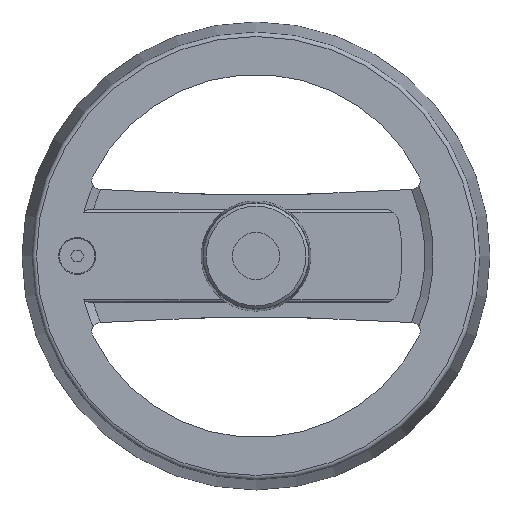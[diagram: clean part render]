
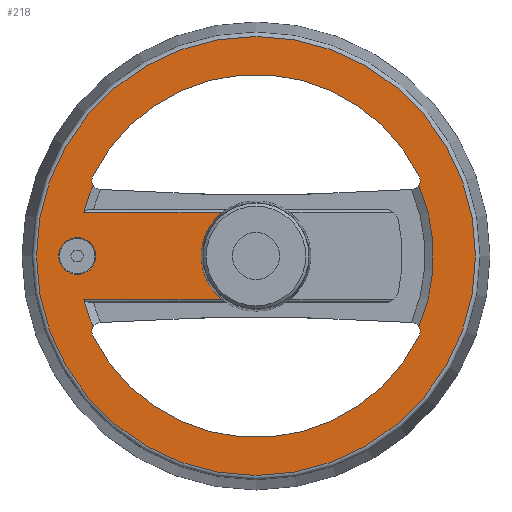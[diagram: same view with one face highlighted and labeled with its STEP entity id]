
A CAD part, left-side view. The second image highlights one B-rep face of the part: STEP entity #218.
In plain terms, the highlighted planar face has unit normal (-1, 0, 0).
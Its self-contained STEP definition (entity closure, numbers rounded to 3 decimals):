
#218 = ADVANCED_FACE( '', ( #389, #390, #391 ), #392, .F. );
#389 = FACE_OUTER_BOUND( '', #649, .T. );
#390 = FACE_BOUND( '', #650, .T. );
#391 = FACE_BOUND( '', #651, .T. );
#392 = PLANE( '', #652 );
#649 = EDGE_LOOP( '', ( #1170 ) );
#650 = EDGE_LOOP( '', ( #1171 ) );
#651 = EDGE_LOOP( '', ( #1172, #1173, #1174, #1175, #1176, #1177, #1178, #1179, #1180, #1181, #1182, #1183 ) );
#652 = AXIS2_PLACEMENT_3D( '', #1184, #1185, #1186 );
#1170 = ORIENTED_EDGE( '', *, *, #1762, .F. );
#1171 = ORIENTED_EDGE( '', *, *, #1676, .T. );
#1172 = ORIENTED_EDGE( '', *, *, #1693, .F. );
#1173 = ORIENTED_EDGE( '', *, *, #1763, .F. );
#1174 = ORIENTED_EDGE( '', *, *, #1764, .F. );
#1175 = ORIENTED_EDGE( '', *, *, #1765, .T. );
#1176 = ORIENTED_EDGE( '', *, *, #1700, .F. );
#1177 = ORIENTED_EDGE( '', *, *, #1697, .F. );
#1178 = ORIENTED_EDGE( '', *, *, #1705, .F. );
#1179 = ORIENTED_EDGE( '', *, *, #1690, .T. );
#1180 = ORIENTED_EDGE( '', *, *, #1766, .T. );
#1181 = ORIENTED_EDGE( '', *, *, #1767, .F. );
#1182 = ORIENTED_EDGE( '', *, *, #1768, .F. );
#1183 = ORIENTED_EDGE( '', *, *, #1769, .T. );
#1184 = CARTESIAN_POINT( '', ( 21.2, 62., -14.74 ) );
#1185 = DIRECTION( '', ( 1., 0., 0. ) );
#1186 = DIRECTION( '', ( 0., 0., -1. ) );
#1676 = EDGE_CURVE( '', #1975, #1975, #1976, .T. );
#1690 = EDGE_CURVE( '', #1994, #2002, #2004, .T. );
#1693 = EDGE_CURVE( '', #2007, #2009, #2010, .F. );
#1697 = EDGE_CURVE( '', #2015, #2017, #2018, .F. );
#1700 = EDGE_CURVE( '', #2017, #2022, #2023, .F. );
#1705 = EDGE_CURVE( '', #1994, #2015, #2030, .F. );
#1762 = EDGE_CURVE( '', #2120, #2120, #2121, .T. );
#1763 = EDGE_CURVE( '', #2122, #2007, #2123, .F. );
#1764 = EDGE_CURVE( '', #2124, #2122, #2125, .F. );
#1765 = EDGE_CURVE( '', #2124, #2022, #2126, .T. );
#1766 = EDGE_CURVE( '', #2002, #2127, #2128, .T. );
#1767 = EDGE_CURVE( '', #2129, #2127, #2130, .F. );
#1768 = EDGE_CURVE( '', #2131, #2129, #2132, .T. );
#1769 = EDGE_CURVE( '', #2131, #2009, #2133, .T. );
#1975 = VERTEX_POINT( '', #2535 );
#1976 = CIRCLE( '', #2536, 6.3 );
#1994 = VERTEX_POINT( '', #2568 );
#2002 = VERTEX_POINT( '', #2591 );
#2004 = CIRCLE( '', #2604, 60.57 );
#2007 = VERTEX_POINT( '', #2624 );
#2009 = VERTEX_POINT( '', #2627 );
#2010 = CIRCLE( '', #2628, 2.97 );
#2015 = VERTEX_POINT( '', #2642 );
#2017 = VERTEX_POINT( '', #2645 );
#2018 = CIRCLE( '', #2646, 61.94 );
#2022 = VERTEX_POINT( '', #2668 );
#2023 = CIRCLE( '', #2669, 2.97 );
#2030 = CIRCLE( '', #2704, 2.97 );
#2120 = VERTEX_POINT( '', #2892 );
#2121 = CIRCLE( '', #2893, 74.9 );
#2122 = VERTEX_POINT( '', #2894 );
#2123 = CIRCLE( '', #2895, 61.94 );
#2124 = VERTEX_POINT( '', #2896 );
#2125 = CIRCLE( '', #2897, 2.97 );
#2126 = CIRCLE( '', #2898, 60.57 );
#2127 = VERTEX_POINT( '', #2899 );
#2128 = LINE( '', #2900, #2901 );
#2129 = VERTEX_POINT( '', #2902 );
#2130 = CIRCLE( '', #2903, 18.74 );
#2131 = VERTEX_POINT( '', #2904 );
#2132 = LINE( '', #2905, #2906 );
#2133 = CIRCLE( '', #2907, 60.57 );
#2535 = CARTESIAN_POINT( '', ( 21.2, 61., -6.3 ) );
#2536 = AXIS2_PLACEMENT_3D( '', #3301, #3302, #3303 );
#2568 = CARTESIAN_POINT( '', ( 21.2, 55.586, -24.061 ) );
#2591 = CARTESIAN_POINT( '', ( 21.2, 58.749, -14.74 ) );
#2604 = AXIS2_PLACEMENT_3D( '', #3315, #3316, #3317 );
#2624 = CARTESIAN_POINT( '', ( 21.2, 55.745, 27.002 ) );
#2627 = CARTESIAN_POINT( '', ( 21.2, 55.586, 24.061 ) );
#2628 = AXIS2_PLACEMENT_3D( '', #3319, #3320, #3321 );
#2642 = CARTESIAN_POINT( '', ( 21.2, 55.745, -27.002 ) );
#2645 = CARTESIAN_POINT( '', ( 21.2, -55.745, -27.002 ) );
#2646 = AXIS2_PLACEMENT_3D( '', #3326, #3327, #3328 );
#2668 = CARTESIAN_POINT( '', ( 21.2, -55.586, -24.061 ) );
#2669 = AXIS2_PLACEMENT_3D( '', #3330, #3331, #3332 );
#2704 = AXIS2_PLACEMENT_3D( '', #3335, #3336, #3337 );
#2892 = CARTESIAN_POINT( '', ( 21.2, 0., -74.9 ) );
#2893 = AXIS2_PLACEMENT_3D( '', #3422, #3423, #3424 );
#2894 = CARTESIAN_POINT( '', ( 21.2, -55.745, 27.002 ) );
#2895 = AXIS2_PLACEMENT_3D( '', #3425, #3426, #3427 );
#2896 = CARTESIAN_POINT( '', ( 21.2, -55.586, 24.061 ) );
#2897 = AXIS2_PLACEMENT_3D( '', #3428, #3429, #3430 );
#2898 = AXIS2_PLACEMENT_3D( '', #3431, #3432, #3433 );
#2899 = CARTESIAN_POINT( '', ( 21.2, 11.573, -14.74 ) );
#2900 = CARTESIAN_POINT( '', ( 21.2, 62., -14.74 ) );
#2901 = VECTOR( '', #3434, 1000. );
#2902 = CARTESIAN_POINT( '', ( 21.2, 11.573, 14.74 ) );
#2903 = AXIS2_PLACEMENT_3D( '', #3435, #3436, #3437 );
#2904 = CARTESIAN_POINT( '', ( 21.2, 58.749, 14.74 ) );
#2905 = CARTESIAN_POINT( '', ( 21.2, 62., 14.74 ) );
#2906 = VECTOR( '', #3438, 1000. );
#2907 = AXIS2_PLACEMENT_3D( '', #3439, #3440, #3441 );
#3301 = CARTESIAN_POINT( '', ( 21.2, 61., 0. ) );
#3302 = DIRECTION( '', ( 1., 0., 0. ) );
#3303 = DIRECTION( '', ( 0., 0., -1. ) );
#3315 = CARTESIAN_POINT( '', ( 21.2, 0., 0. ) );
#3316 = DIRECTION( '', ( 1., 0., 0. ) );
#3317 = DIRECTION( '', ( 0., 0., -1. ) );
#3319 = CARTESIAN_POINT( '', ( 21.2, 53.09, 25.67 ) );
#3320 = DIRECTION( '', ( 1., 0., 0. ) );
#3321 = DIRECTION( '', ( 0., 0., -1. ) );
#3326 = CARTESIAN_POINT( '', ( 21.2, 0., 0. ) );
#3327 = DIRECTION( '', ( 1., 0., 0. ) );
#3328 = DIRECTION( '', ( 0., 0., -1. ) );
#3330 = CARTESIAN_POINT( '', ( 21.2, -53.09, -25.67 ) );
#3331 = DIRECTION( '', ( 1., 0., 0. ) );
#3332 = DIRECTION( '', ( 0., 0., -1. ) );
#3335 = CARTESIAN_POINT( '', ( 21.2, 53.09, -25.67 ) );
#3336 = DIRECTION( '', ( 1., 0., 0. ) );
#3337 = DIRECTION( '', ( 0., 0., -1. ) );
#3422 = CARTESIAN_POINT( '', ( 21.2, 0., 0. ) );
#3423 = DIRECTION( '', ( 1., 0., 0. ) );
#3424 = DIRECTION( '', ( 0., 0., -1. ) );
#3425 = CARTESIAN_POINT( '', ( 21.2, 0., 0. ) );
#3426 = DIRECTION( '', ( 1., 0., 0. ) );
#3427 = DIRECTION( '', ( 0., 0., -1. ) );
#3428 = CARTESIAN_POINT( '', ( 21.2, -53.09, 25.67 ) );
#3429 = DIRECTION( '', ( 1., 0., 0. ) );
#3430 = DIRECTION( '', ( 0., 0., -1. ) );
#3431 = CARTESIAN_POINT( '', ( 21.2, 0., 0. ) );
#3432 = DIRECTION( '', ( 1., 0., 0. ) );
#3433 = DIRECTION( '', ( 0., 0., -1. ) );
#3434 = DIRECTION( '', ( 0., -1., 0. ) );
#3435 = CARTESIAN_POINT( '', ( 21.2, 0., 0. ) );
#3436 = DIRECTION( '', ( 1., 0., 0. ) );
#3437 = DIRECTION( '', ( 0., 0., -1. ) );
#3438 = DIRECTION( '', ( 0., -1., 0. ) );
#3439 = CARTESIAN_POINT( '', ( 21.2, 0., 0. ) );
#3440 = DIRECTION( '', ( 1., 0., 0. ) );
#3441 = DIRECTION( '', ( 0., 0., -1. ) );
